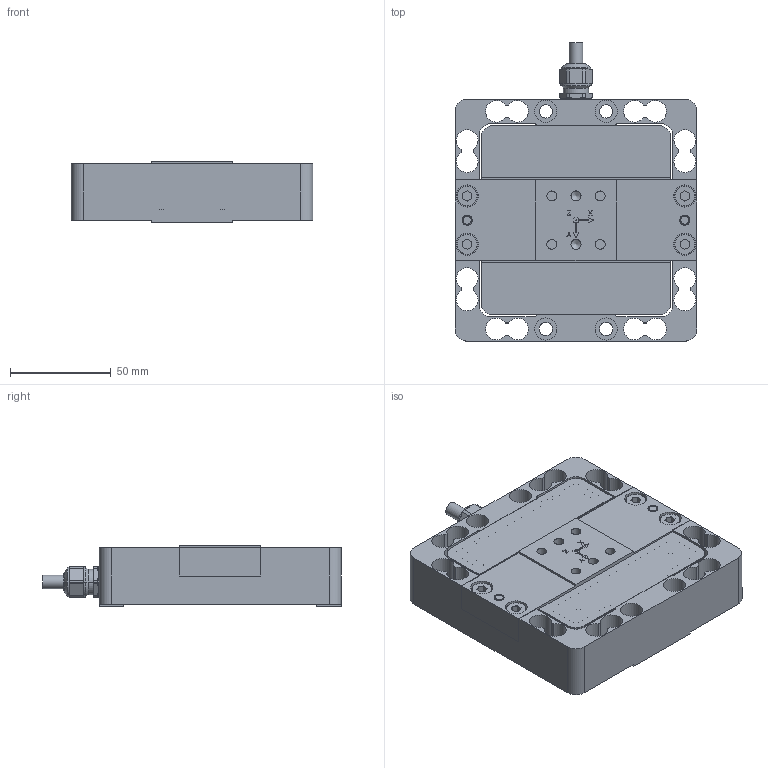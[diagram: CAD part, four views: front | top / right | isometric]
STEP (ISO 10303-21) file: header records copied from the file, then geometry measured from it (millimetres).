
FILE_DESCRIPTION(/* description */ ('Alibre Inc.'),/* implementation_level */ '2;1');
FILE_NAME(/* name */ 'export0',/* time_stamp */ '2016-04-27T12:35:08+02:00',/* author */ (''),/* organization */ (''),/* preprocessor_version */ 'ST-DEVELOPER v14',/* originating_system */ 'Alibre',/* authorisation */ '');
FILE_SCHEMA (('CONFIG_CONTROL_DESIGN'));
Length unit declared in the file: centimetre
Products named in the file (10): ID_1; 1; ID_2
Bounding box: 120 x 148 x 30 mm (x, y, z)
Volume: 189888.4 mm3; surface area: 117733.4 mm2
Topology: 13 solids, 16 shells, 526 faces, 1324 edges, 864 vertices
Faces by surface type: plane 261, cylinder 205, cone 38, torus 22
Full cylindrical faces by diameter (mm): 1.567 x1, 2.459 x4, 2.5 x1, 3.5 x2, 4.917 x8, 5 x10, 6 x4, 6.6 x8, 6.8 x1, 7 x4, 9 x1, 10 x4, 10.376 x1, 11 x8
Entity records: 14546 total; most frequent: CARTESIAN_POINT 2375, DIRECTION 2230, ORIENTED_EDGE 2198, EDGE_CURVE 1099, AXIS2_PLACEMENT_3D 917, VERTEX_POINT 758, VECTOR 630, LINE 630
